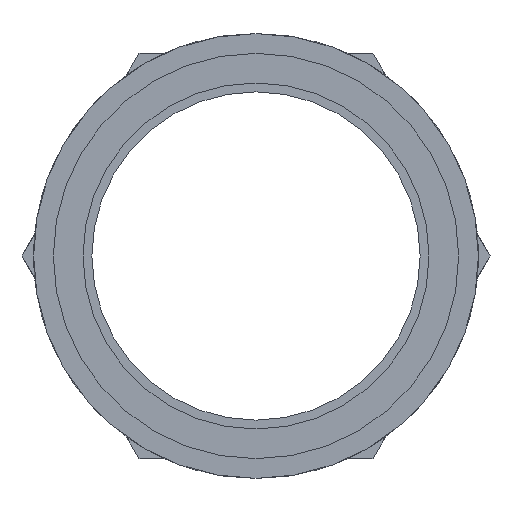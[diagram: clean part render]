
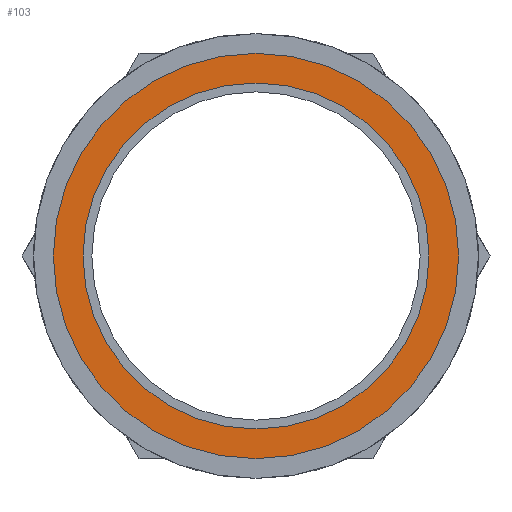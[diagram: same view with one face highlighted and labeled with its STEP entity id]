
A CAD part, left-side view. The second image highlights one B-rep face of the part: STEP entity #103.
In plain terms, the highlighted planar face has unit normal (-1, 0, 0).
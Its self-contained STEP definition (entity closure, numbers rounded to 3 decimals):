
#29 = EDGE_CURVE ( 'NONE', #322, #452, #1015, .T. ) ;
#35 = FACE_OUTER_BOUND ( 'NONE', #877, .T. ) ;
#46 = CIRCLE ( 'NONE', #681, 20.5 ) ;
#103 = ADVANCED_FACE ( 'NONE', ( #890, #35 ), #530, .F. ) ;
#170 = CARTESIAN_POINT ( 'NONE',  ( 30., 0., 0. ) ) ;
#174 = CIRCLE ( 'NONE', #931, 17.5 ) ;
#177 = CARTESIAN_POINT ( 'NONE',  ( 30., 0., 0. ) ) ;
#322 = VERTEX_POINT ( 'NONE', #592 ) ;
#344 = ORIENTED_EDGE ( 'NONE', *, *, #928, .F. ) ;
#358 = CARTESIAN_POINT ( 'NONE',  ( 30., 0., 17.5 ) ) ;
#405 = CARTESIAN_POINT ( 'NONE',  ( 30., 0., 0. ) ) ;
#452 = VERTEX_POINT ( 'NONE', #1033 ) ;
#457 = EDGE_CURVE ( 'NONE', #749, #990, #174, .T. ) ;
#478 = DIRECTION ( 'NONE',  ( 0., 0., 1. ) ) ;
#484 = DIRECTION ( 'NONE',  ( 0., 0., 1. ) ) ;
#488 = CARTESIAN_POINT ( 'NONE',  ( 30., 0., -17.5 ) ) ;
#491 = DIRECTION ( 'NONE',  ( -1., 0., 0. ) ) ;
#530 = PLANE ( 'NONE',  #737 ) ;
#556 = ORIENTED_EDGE ( 'NONE', *, *, #742, .T. ) ;
#574 = ORIENTED_EDGE ( 'NONE', *, *, #457, .F. ) ;
#592 = CARTESIAN_POINT ( 'NONE',  ( 30., 0., -20.5 ) ) ;
#607 = ORIENTED_EDGE ( 'NONE', *, *, #29, .T. ) ;
#681 = AXIS2_PLACEMENT_3D ( 'NONE', #177, #1027, #688 ) ;
#688 = DIRECTION ( 'NONE',  ( 0., 0., 1. ) ) ;
#696 = EDGE_LOOP ( 'NONE', ( #574, #344 ) ) ;
#737 = AXIS2_PLACEMENT_3D ( 'NONE', #881, #895, #961 ) ;
#742 = EDGE_CURVE ( 'NONE', #452, #322, #46, .T. ) ;
#749 = VERTEX_POINT ( 'NONE', #358 ) ;
#761 = AXIS2_PLACEMENT_3D ( 'NONE', #405, #491, #478 ) ;
#827 = DIRECTION ( 'NONE',  ( -1., 0., 0. ) ) ;
#836 = CIRCLE ( 'NONE', #761, 17.5 ) ;
#877 = EDGE_LOOP ( 'NONE', ( #556, #607 ) ) ;
#881 = CARTESIAN_POINT ( 'NONE',  ( 30., 17.5, 0. ) ) ;
#890 = FACE_BOUND ( 'NONE', #696, .T. ) ;
#895 = DIRECTION ( 'NONE',  ( 1., 0., 0. ) ) ;
#914 = AXIS2_PLACEMENT_3D ( 'NONE', #170, #827, #484 ) ;
#928 = EDGE_CURVE ( 'NONE', #990, #749, #836, .T. ) ;
#931 = AXIS2_PLACEMENT_3D ( 'NONE', #995, #942, #933 ) ;
#933 = DIRECTION ( 'NONE',  ( 0., 0., 1. ) ) ;
#942 = DIRECTION ( 'NONE',  ( -1., 0., 0. ) ) ;
#961 = DIRECTION ( 'NONE',  ( 0., 0., -1. ) ) ;
#990 = VERTEX_POINT ( 'NONE', #488 ) ;
#995 = CARTESIAN_POINT ( 'NONE',  ( 30., 0., 0. ) ) ;
#1015 = CIRCLE ( 'NONE', #914, 20.5 ) ;
#1027 = DIRECTION ( 'NONE',  ( -1., 0., 0. ) ) ;
#1033 = CARTESIAN_POINT ( 'NONE',  ( 30., 0., 20.5 ) ) ;
